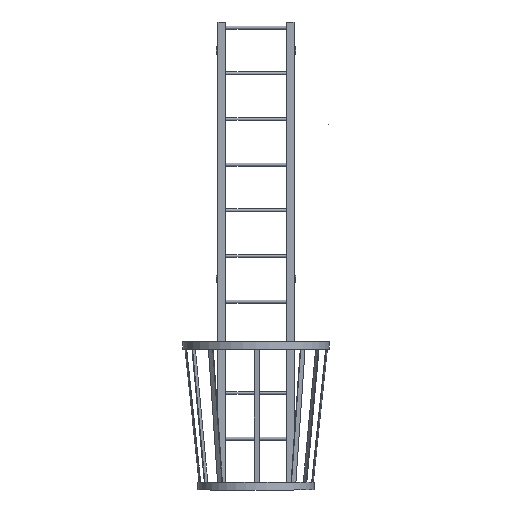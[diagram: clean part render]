
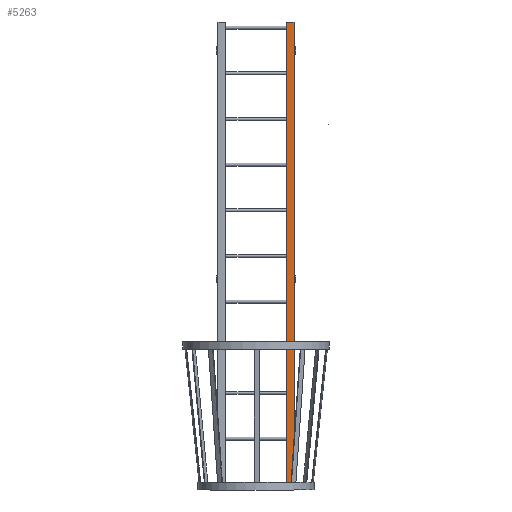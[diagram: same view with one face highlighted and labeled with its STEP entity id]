
A CAD part, left-side view. The second image highlights one B-rep face of the part: STEP entity #5263.
In plain terms, the highlighted planar face has unit normal (-1, 0, 0).
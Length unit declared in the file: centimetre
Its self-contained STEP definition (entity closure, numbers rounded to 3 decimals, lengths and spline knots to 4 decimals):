
#618=FACE_OUTER_BOUND('',#959,.T.);
#959=EDGE_LOOP('',(#4306,#4307,#4308,#4309));
#1475=LINE('',#8573,#1942);
#1476=LINE('',#8575,#1943);
#1477=LINE('',#8577,#1944);
#1478=LINE('',#8578,#1945);
#1942=VECTOR('',#7074,5.08);
#1943=VECTOR('',#7075,312.42);
#1944=VECTOR('',#7076,5.08);
#1945=VECTOR('',#7077,312.42);
#2457=VERTEX_POINT('',#8571);
#2458=VERTEX_POINT('',#8572);
#2459=VERTEX_POINT('',#8574);
#2460=VERTEX_POINT('',#8576);
#3133=EDGE_CURVE('',#2457,#2458,#1475,.T.);
#3134=EDGE_CURVE('',#2459,#2458,#1476,.T.);
#3135=EDGE_CURVE('',#2460,#2459,#1477,.T.);
#3136=EDGE_CURVE('',#2460,#2457,#1478,.T.);
#4306=ORIENTED_EDGE('',*,*,#3133,.T.);
#4307=ORIENTED_EDGE('',*,*,#3134,.F.);
#4308=ORIENTED_EDGE('',*,*,#3135,.F.);
#4309=ORIENTED_EDGE('',*,*,#3136,.T.);
#4740=PLANE('',#5742);
#5263=ADVANCED_FACE('',(#618),#4740,.T.);
#5742=AXIS2_PLACEMENT_3D('',#8570,#7072,#7073);
#7072=DIRECTION('center_axis',(-1.,0.,0.));
#7073=DIRECTION('ref_axis',(0.,0.,-1.));
#7074=DIRECTION('',(0.,-1.,0.));
#7075=DIRECTION('',(0.,0.,-1.));
#7076=DIRECTION('',(0.,-1.,0.));
#7077=DIRECTION('',(0.,0.,-1.));
#8570=CARTESIAN_POINT('Origin',(0.,-40.64,312.42));
#8571=CARTESIAN_POINT('',(0.,-40.64,0.));
#8572=CARTESIAN_POINT('',(0.,-45.72,0.));
#8573=CARTESIAN_POINT('',(0.,-40.64,0.));
#8574=CARTESIAN_POINT('',(0.,-45.72,312.42));
#8575=CARTESIAN_POINT('',(0.,-45.72,312.42));
#8576=CARTESIAN_POINT('',(0.,-40.64,312.42));
#8577=CARTESIAN_POINT('',(0.,-40.64,312.42));
#8578=CARTESIAN_POINT('',(0.,-40.64,312.42));
